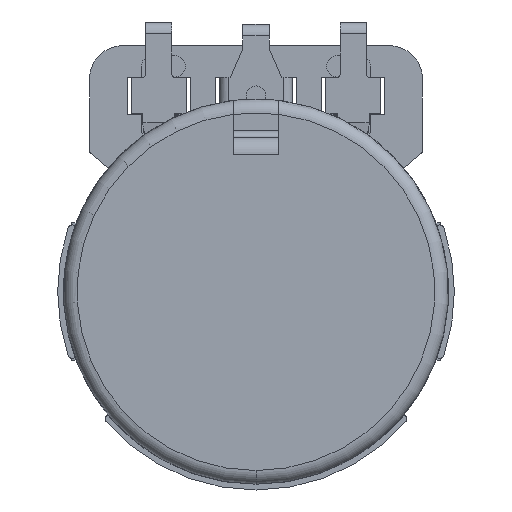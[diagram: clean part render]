
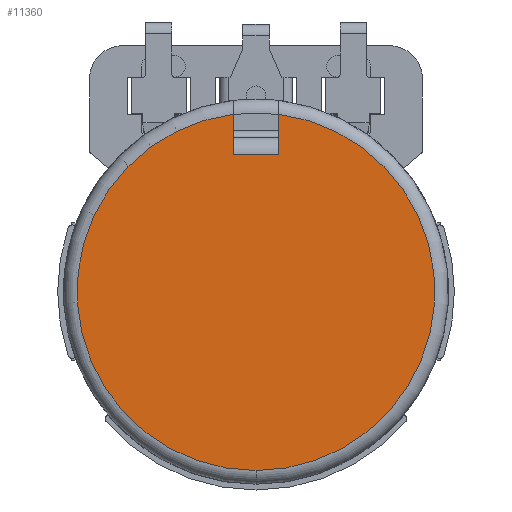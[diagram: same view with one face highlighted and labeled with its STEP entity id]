
A CAD part, front view. The second image highlights one B-rep face of the part: STEP entity #11360.
In plain terms, the highlighted planar face has unit normal (0, -1, 0).
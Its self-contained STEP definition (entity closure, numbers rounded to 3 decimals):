
#221 = AXIS2_PLACEMENT_3D ( 'NONE', #7073, #4062, #16730 ) ;
#726 = EDGE_CURVE ( 'NONE', #14094, #14359, #4993, .T. ) ;
#887 = VECTOR ( 'NONE', #3922, 1000. ) ;
#1188 = AXIS2_PLACEMENT_3D ( 'NONE', #10907, #2825, #2506 ) ;
#1207 = VECTOR ( 'NONE', #5455, 1000. ) ;
#2506 = DIRECTION ( 'NONE',  ( 0., 0., -1. ) ) ;
#2703 = ORIENTED_EDGE ( 'NONE', *, *, #726, .T. ) ;
#2825 = DIRECTION ( 'NONE',  ( 0., -1., 0. ) ) ;
#3703 = ORIENTED_EDGE ( 'NONE', *, *, #5694, .T. ) ;
#3922 = DIRECTION ( 'NONE',  ( 0., 0., 1. ) ) ;
#4058 = ORIENTED_EDGE ( 'NONE', *, *, #7380, .F. ) ;
#4062 = DIRECTION ( 'NONE',  ( 0., -1., 0. ) ) ;
#4408 = EDGE_LOOP ( 'NONE', ( #5670, #6535, #4058, #2703, #3703 ) ) ;
#4649 = CARTESIAN_POINT ( 'NONE',  ( -1.397, 0., 10.884 ) ) ;
#4993 = CIRCLE ( 'NONE', #221, 10.973 ) ;
#5159 = PLANE ( 'NONE',  #7089 ) ;
#5336 = CARTESIAN_POINT ( 'NONE',  ( 1.397, 0., 12.522 ) ) ;
#5380 = FACE_OUTER_BOUND ( 'NONE', #4408, .T. ) ;
#5455 = DIRECTION ( 'NONE',  ( 0., 0., -1. ) ) ;
#5670 = ORIENTED_EDGE ( 'NONE', *, *, #16104, .F. ) ;
#5694 = EDGE_CURVE ( 'NONE', #14359, #7585, #19536, .T. ) ;
#5796 = CARTESIAN_POINT ( 'NONE',  ( 0., 0., -10.973 ) ) ;
#6188 = CARTESIAN_POINT ( 'NONE',  ( -1.397, 0., 8.382 ) ) ;
#6535 = ORIENTED_EDGE ( 'NONE', *, *, #7845, .T. ) ;
#7073 = CARTESIAN_POINT ( 'NONE',  ( 0., 0., 0. ) ) ;
#7089 = AXIS2_PLACEMENT_3D ( 'NONE', #16646, #16548, #14338 ) ;
#7380 = EDGE_CURVE ( 'NONE', #14094, #17628, #13730, .T. ) ;
#7585 = VERTEX_POINT ( 'NONE', #11482 ) ;
#7845 = EDGE_CURVE ( 'NONE', #16218, #17628, #14243, .T. ) ;
#8904 = CARTESIAN_POINT ( 'NONE',  ( 1.397, 0., 8.382 ) ) ;
#10608 = CARTESIAN_POINT ( 'NONE',  ( -1.397, 0., 8.382 ) ) ;
#10907 = CARTESIAN_POINT ( 'NONE',  ( 0., 0., 0. ) ) ;
#11360 = ADVANCED_FACE ( 'NONE', ( #5380 ), #5159, .T. ) ;
#11482 = CARTESIAN_POINT ( 'NONE',  ( 1.397, 0., 10.884 ) ) ;
#12027 = VECTOR ( 'NONE', #18833, 1000. ) ;
#13730 = LINE ( 'NONE', #20251, #1207 ) ;
#14094 = VERTEX_POINT ( 'NONE', #4649 ) ;
#14243 = LINE ( 'NONE', #10608, #12027 ) ;
#14338 = DIRECTION ( 'NONE',  ( 0., 0., -1. ) ) ;
#14359 = VERTEX_POINT ( 'NONE', #5796 ) ;
#16104 = EDGE_CURVE ( 'NONE', #16218, #7585, #18521, .T. ) ;
#16218 = VERTEX_POINT ( 'NONE', #8904 ) ;
#16548 = DIRECTION ( 'NONE',  ( 0., -1., 0. ) ) ;
#16646 = CARTESIAN_POINT ( 'NONE',  ( -5.207, 0., 0. ) ) ;
#16730 = DIRECTION ( 'NONE',  ( 0., 0., -1. ) ) ;
#17628 = VERTEX_POINT ( 'NONE', #6188 ) ;
#18521 = LINE ( 'NONE', #5336, #887 ) ;
#18833 = DIRECTION ( 'NONE',  ( -1., 0., 0. ) ) ;
#19536 = CIRCLE ( 'NONE', #1188, 10.973 ) ;
#20251 = CARTESIAN_POINT ( 'NONE',  ( -1.397, 0., 12.522 ) ) ;
